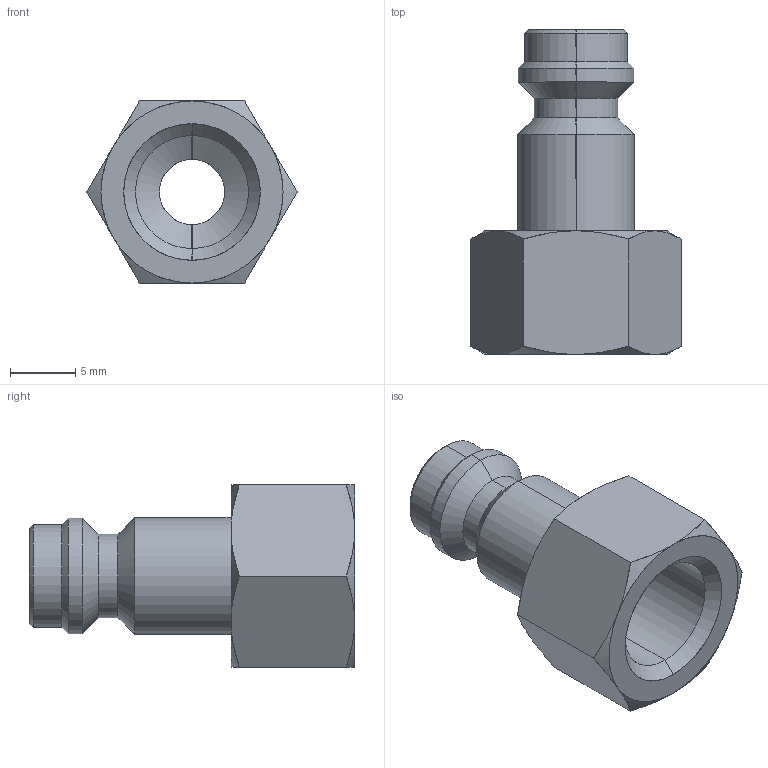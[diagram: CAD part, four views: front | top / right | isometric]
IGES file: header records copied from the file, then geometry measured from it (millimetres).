
Start section: SolidWorks IGES file using analytic representation for surfaces
Global section: file name: K:\Disegni Esecutivi\Serie 100-200\ASSIEMI\212\0021200010200A.IGS; native system: SolidWorks 2008; preprocessor: SolidWorks 2008; author: cad05; date: 090304.105007; units: millimetre
Bounding box: 16.17 x 25 x 14 mm (x, y, z)
Surface area: 1618.3 mm2 (no closed solid volume)
Topology: 0 solids, 0 shells, 45 faces, 512 edges, 512 vertices
Faces by surface type: revolution 36, bspline 9
